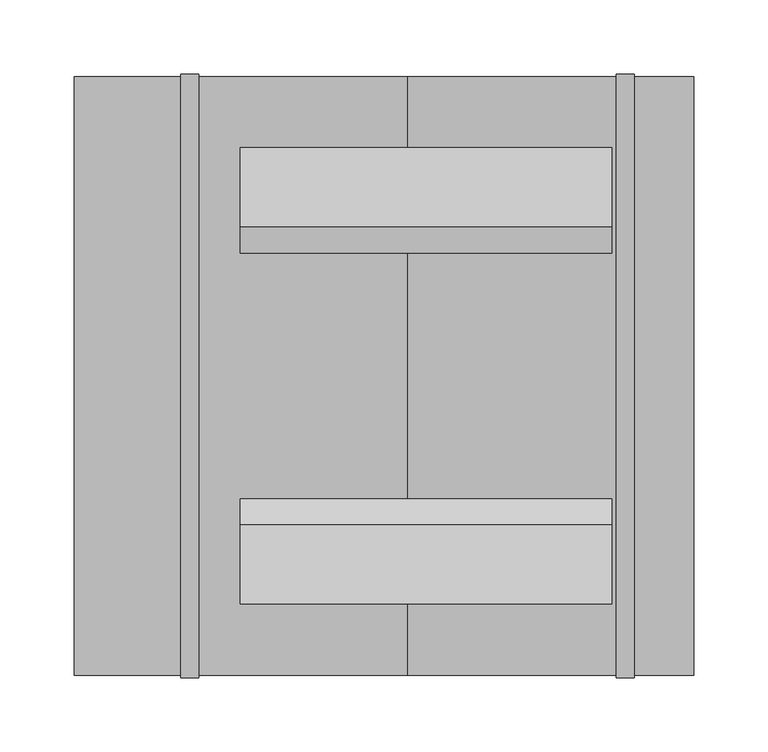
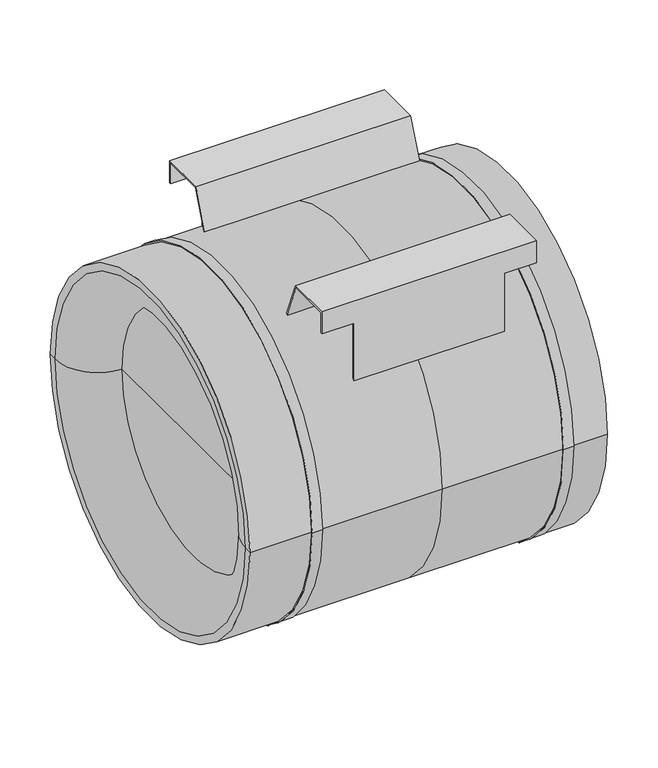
"""IFC4 building model written with IfcOpenShell, lengths in millimetres: unitary equipment geometry, VE-Wentylator-ParaForma-Harmann-JETTEC_EC-Nawiewny : 400/8100EC."""

from ifc_helpers import new_model, si_unit, point, frame, frame_2d, origin, place, context, project, spatial, polyline, circle_curve, ellipse_curve, trimmed, segment, composite_curve, outline, extrude, source, transform, mapped, element, save
from ifc_brep_helpers import plane_surface, cylinder_surface, revolved_surface, advanced_brep


def unitary_equipment_ea2b1bd6(model_context):
    return source(origin(), model_context, "Body", "SolidModel", [
        extrude(outline(composite_curve([segment(polyline([(-45.5, -47.7), (-45.5, 47.7)]), True, "CONTINUOUS"), segment(trimmed(circle_curve(frame_2d((-40.5, 47.7)), 5.0), [point((-45.5, 47.7))], [point((-40.5, 52.7))], False, "CARTESIAN"), True, "CONTINUOUS"), segment(polyline([(-40.5, 52.7), (40.5, 52.7)]), True, "CONTINUOUS"), segment(trimmed(circle_curve(frame_2d((40.5, 47.7)), 5.0), [point((40.5, 52.7))], [point((45.5, 47.7))], False, "CARTESIAN"), True, "CONTINUOUS"), segment(polyline([(45.5, 47.7), (45.5, -47.7)]), True, "CONTINUOUS"), segment(trimmed(circle_curve(frame_2d((40.5, -47.7)), 5.0), [point((45.5, -47.7))], [point((40.5, -52.7))], False, "CARTESIAN"), True, "CONTINUOUS"), segment(polyline([(40.5, -52.7), (-40.5, -52.7)]), True, "CONTINUOUS"), segment(trimmed(circle_curve(frame_2d((-40.5, -47.7)), 5.0), [point((-40.5, -52.7))], [point((-45.5, -47.7))], False, "CARTESIAN"), True, "CONTINUOUS")], self_intersect=False)), frame((0.0, -55.0, 0.0), z_axis=(0.0, 1.0, 0.0), x_axis=(0.0, 0.0, 1.0)), (0.0, 0.0, 1.0), 45.0),
        advanced_brep(
        [(137.5, 153.5, 201.5), (137.5, 153.5, 228.5), (137.5, 100.1, 228.5), (137.5, 82.790246, 183.7063558), (137.5, 84.6127647, 182.8740825), (137.5, 101.4712703, 226.5), (137.5, 151.5, 226.5), (137.5, 151.5, 201.5), (100.0, 151.5, 201.5), (100.0, 153.5, 201.5), (-112.5, 151.5, 226.5), (-112.5, 151.5, 201.5), (-75.0, 151.5, 201.5), (-75.0, 151.5, 132.8533026), (100.0, 151.5, 132.8533026), (-112.5, 101.4712703, 226.5), (100.0, 84.6127647, 182.8740825), (-75.0, 84.6127647, 182.8740825), (-112.5, 84.6127647, 182.8740825), (-112.5, 100.1, 228.5), (-112.5, 82.790246, 183.7063558), (-75.0, 82.790246, 183.7063558), (100.0, 82.790246, 183.7063558), (-112.5, 153.5, 228.5), (100.0, 153.5, 130.537351), (-75.0, 153.5, 130.537351), (-75.0, 153.5, 201.5), (-112.5, 153.5, 201.5)],
        [
            (0, 1),
            (1, 2),
            (2, 3),
            (3, 4, circle_curve(frame((137.5, 0.0, 0.0), z_axis=(-1.0, 0.0, 0.0), x_axis=(0.0, 1.0, 0.0)), 201.5)),
            (4, 5),
            (5, 6),
            (6, 7),
            (7, 0),
            (7, 8),
            (8, 9),
            (9, 0),
            (6, 10),
            (10, 11),
            (11, 12),
            (12, 13),
            (13, 14),
            (14, 8),
            (5, 15),
            (15, 10),
            (4, 16),
            (16, 17),
            (17, 18),
            (18, 15),
            (19, 20),
            (20, 21),
            (21, 22),
            (22, 3),
            (2, 19),
            (1, 23),
            (23, 19),
            (9, 24),
            (24, 25),
            (25, 26),
            (26, 27),
            (27, 23),
            (20, 18, circle_curve(frame((-112.5, 0.0, 0.0), z_axis=(-1.0, 0.0, 0.0), x_axis=(0.0, 1.0, 0.0)), 201.5)),
            (17, 21, circle_curve(frame((-75.0, 0.0, 0.0), z_axis=(1.0, 0.0, 0.0), x_axis=(0.0, 1.0, 0.0)), 201.5)),
            (22, 16, circle_curve(frame((100.0, 0.0, 0.0), z_axis=(-1.0, 0.0, 0.0), x_axis=(0.0, 1.0, 0.0)), 201.5)),
            (25, 13, circle_curve(frame((-75.0, 0.0, 0.0), z_axis=(1.0, 0.0, 0.0), x_axis=(0.0, 1.0, 0.0)), 201.5)),
            (12, 26),
            (14, 24, circle_curve(frame((100.0, 0.0, 0.0), z_axis=(-1.0, 0.0, 0.0), x_axis=(0.0, 1.0, 0.0)), 201.5)),
            (27, 11),
        ],
        [
            plane_surface(frame((137.5, 0.0, 0.0), z_axis=(1.0, 0.0, 0.0), x_axis=(0.0, 0.0, 1.0))),
            plane_surface(frame((100.0, 153.5, 201.5), z_axis=(0.0, 0.0, -1.0), x_axis=(1.0, 0.0, 0.0))),
            plane_surface(frame((100.0, 151.5, 201.5), z_axis=(0.0, -1.0, 0.0), x_axis=(1.0, 0.0, 0.0))),
            plane_surface(frame((100.0, 151.5, 226.5), z_axis=(0.0, 0.0, -1.0), x_axis=(1.0, 0.0, 0.0))),
            plane_surface(frame((100.0, 101.4712703, 226.5), z_axis=(0.0, 0.932776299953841, -0.36045578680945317), x_axis=(1.0, 0.0, 0.0))),
            plane_surface(frame((100.0, 11.8, 0.0), z_axis=(0.0, -0.9327762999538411, 0.36045578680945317), x_axis=(1.0, 0.0, 0.0))),
            plane_surface(frame((100.0, 100.1, 228.5), z_axis=(0.0, 0.0, 1.0), x_axis=(1.0, 0.0, 0.0))),
            plane_surface(frame((100.0, 153.5, 228.5), z_axis=(0.0, 1.0, 0.0), x_axis=(1.0, 0.0, 0.0))),
            revolved_surface(polyline([(-112.5, 201.5, 0.0), (-75.0, 201.5, 0.0)]), (-112.5, 0.0, 0.0), (-1.0, 0.0, 0.0)),
            revolved_surface(polyline([(100.0, 201.5, 0.0), (137.5, 201.5, 0.0)]), (100.0, 0.0, 0.0), (-1.0, 0.0, 0.0)),
            plane_surface(frame((-75.0, 0.0, 0.0), z_axis=(-1.0, 0.0, 0.0), x_axis=(0.0, 0.0, 1.0))),
            plane_surface(frame((100.0, 0.0, 0.0), z_axis=(1.0, 0.0, 0.0), x_axis=(0.0, 0.0, 1.0))),
            revolved_surface(polyline([(-75.0, 201.5, 0.0), (100.0, 201.5, 0.0)]), (-75.0, 0.0, 0.0), (-1.0, 0.0, 0.0)),
            plane_surface(frame((-112.5, 0.0, 0.0), z_axis=(-1.0, 0.0, 0.0), x_axis=(0.0, 0.0, 1.0))),
            plane_surface(frame((-112.5, 153.5, 201.5), z_axis=(0.0, 0.0, -1.0), x_axis=(1.0, 0.0, 0.0))),
        ],
        [
            (0, [[1, 2, 3, 4, 5, 6, 7, 8]]),
            (1, [[-8, 9, 10, 11]]),
            (2, [[-7, 12, 13, 14, 15, 16, 17, -9]]),
            (3, [[-12, -6, 18, 19]]),
            (4, [[-18, -5, 20, 21, 22, 23]]),
            (5, [[24, 25, 26, 27, -3, 28]]),
            (6, [[-28, -2, 29, 30]]),
            (7, [[-29, -1, -11, 31, 32, 33, 34, 35]]),
            (8, [[36, -22, 37, -25]]),
            (9, [[-4, -27, 38, -20]]),
            (10, [[39, -15, 40, -33]]),
            (11, [[41, -31, -10, -17]]),
            (12, [[-21, -38, -26, -37]]),
            (12, [[-39, -32, -41, -16]]),
            (13, [[42, -13, -19, -23, -36, -24, -30, -35]]),
            (14, [[-42, -34, -40, -14]]),
        ],
    ),
        advanced_brep(
        [(137.5, -100.1, 228.5), (137.5, -153.5, 228.5), (137.5, -153.5, 201.5), (137.5, -151.5, 201.5), (137.5, -151.5, 226.5), (137.5, -101.4712703, 226.5), (137.5, -84.6127647, 182.8740825), (137.5, -82.790246, 183.7063558), (-112.5, -101.4712703, 226.5), (-112.5, -84.6127647, 182.8740825), (-75.0, -84.6127647, 182.8740825), (100.0, -84.6127647, 182.8740825), (-112.5, -151.5, 226.5), (100.0, -151.5, 201.5), (100.0, -151.5, 132.8533026), (-75.0, -151.5, 132.8533026), (-75.0, -151.5, 201.5), (-112.5, -151.5, 201.5), (100.0, -153.5, 201.5), (-112.5, -153.5, 228.5), (-112.5, -153.5, 201.5), (-75.0, -153.5, 201.5), (-75.0, -153.5, 130.537351), (100.0, -153.5, 130.537351), (-112.5, -100.1, 228.5), (100.0, -82.790246, 183.7063558), (-75.0, -82.790246, 183.7063558), (-112.5, -82.790246, 183.7063558)],
        [
            (0, 1),
            (1, 2),
            (2, 3),
            (3, 4),
            (4, 5),
            (5, 6),
            (6, 7, circle_curve(frame((137.5, 0.0, 0.0), z_axis=(-1.0, 0.0, 0.0), x_axis=(0.0, 1.0, 0.0)), 201.5)),
            (7, 0),
            (8, 9),
            (9, 10),
            (10, 11),
            (11, 6),
            (5, 8),
            (4, 12),
            (12, 8),
            (3, 13),
            (13, 14),
            (14, 15),
            (15, 16),
            (16, 17),
            (17, 12),
            (2, 18),
            (18, 13),
            (1, 19),
            (19, 20),
            (20, 21),
            (21, 22),
            (22, 23),
            (23, 18),
            (0, 24),
            (24, 19),
            (7, 25),
            (25, 26),
            (26, 27),
            (27, 24),
            (9, 27, circle_curve(frame((-112.5, 0.0, 0.0), z_axis=(-1.0, 0.0, 0.0), x_axis=(0.0, 1.0, 0.0)), 201.5)),
            (26, 10, circle_curve(frame((-75.0, 0.0, 0.0), z_axis=(1.0, 0.0, 0.0), x_axis=(0.0, 1.0, 0.0)), 201.5)),
            (11, 25, circle_curve(frame((100.0, 0.0, 0.0), z_axis=(-1.0, 0.0, 0.0), x_axis=(0.0, 1.0, 0.0)), 201.5)),
            (15, 22, circle_curve(frame((-75.0, 0.0, 0.0), z_axis=(1.0, 0.0, 0.0), x_axis=(0.0, 1.0, 0.0)), 201.5)),
            (21, 16),
            (23, 14, circle_curve(frame((100.0, 0.0, 0.0), z_axis=(-1.0, 0.0, 0.0), x_axis=(0.0, 1.0, 0.0)), 201.5)),
            (17, 20),
        ],
        [
            plane_surface(frame((137.5, 0.0, 0.0), z_axis=(1.0, 0.0, 0.0), x_axis=(0.0, 0.0, 1.0))),
            plane_surface(frame((100.0, -13.1712703, -2.0), z_axis=(0.0, -0.932776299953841, -0.36045578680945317), x_axis=(1.0, 0.0, 0.0))),
            plane_surface(frame((100.0, -101.4712703, 226.5), z_axis=(0.0, 0.0, -1.0), x_axis=(1.0, 0.0, 0.0))),
            plane_surface(frame((100.0, -151.5, 226.5), z_axis=(0.0, 1.0, 0.0), x_axis=(1.0, 0.0, 0.0))),
            plane_surface(frame((100.0, -151.5, 201.5), z_axis=(0.0, 0.0, -1.0), x_axis=(1.0, 0.0, 0.0))),
            plane_surface(frame((100.0, -153.5, 201.5), z_axis=(0.0, -1.0, 0.0), x_axis=(1.0, 0.0, 0.0))),
            plane_surface(frame((100.0, -153.5, 228.5), z_axis=(0.0, 0.0, 1.0), x_axis=(1.0, 0.0, 0.0))),
            plane_surface(frame((100.0, -100.1, 228.5), z_axis=(0.0, 0.9327762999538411, 0.36045578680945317), x_axis=(1.0, 0.0, 0.0))),
            revolved_surface(polyline([(-112.5, 201.5, 0.0), (-75.0, 201.5, 0.0)]), (-112.5, 0.0, 0.0), (-1.0, 0.0, 0.0)),
            revolved_surface(polyline([(100.0, 201.5, 0.0), (137.5, 201.5, 0.0)]), (100.0, 0.0, 0.0), (-1.0, 0.0, 0.0)),
            plane_surface(frame((-75.0, 0.0, 0.0), z_axis=(-1.0, 0.0, 0.0), x_axis=(0.0, 0.0, 1.0))),
            plane_surface(frame((100.0, 0.0, 0.0), z_axis=(1.0, 0.0, 0.0), x_axis=(0.0, 0.0, 1.0))),
            revolved_surface(polyline([(-75.0, 201.5, 0.0), (100.0, 201.5, 0.0)]), (-75.0, 0.0, 0.0), (-1.0, 0.0, 0.0)),
            plane_surface(frame((-112.5, 0.0, 0.0), z_axis=(-1.0, 0.0, 0.0), x_axis=(0.0, 0.0, 1.0))),
            plane_surface(frame((-112.5, -151.5, 201.5), z_axis=(0.0, 0.0, -1.0), x_axis=(1.0, 0.0, 0.0))),
        ],
        [
            (0, [[1, 2, 3, 4, 5, 6, 7, 8]]),
            (1, [[9, 10, 11, 12, -6, 13]]),
            (2, [[-13, -5, 14, 15]]),
            (3, [[-14, -4, 16, 17, 18, 19, 20, 21]]),
            (4, [[-3, 22, 23, -16]]),
            (5, [[-2, 24, 25, 26, 27, 28, 29, -22]]),
            (6, [[-24, -1, 30, 31]]),
            (7, [[-30, -8, 32, 33, 34, 35]]),
            (8, [[36, -34, 37, -10]]),
            (9, [[-7, -12, 38, -32]]),
            (10, [[39, -27, 40, -19]]),
            (11, [[41, -17, -23, -29]]),
            (12, [[-11, -37, -33, -38]]),
            (12, [[-39, -18, -41, -28]]),
            (13, [[-15, -21, 42, -25, -31, -35, -36, -9]]),
            (14, [[-42, -20, -40, -26]]),
        ],
    ),
        advanced_brep(
        [(-140.5, 201.5, 0.0), (0.0, 201.5, 0.0), (0.0, -201.5, 0.0), (-140.5, -201.5, 0.0), (-224.0, -201.5, 0.0), (-224.0, 201.5, 0.0), (-152.5, 201.5, 0.0), (-152.5, -201.5, 0.0), (-224.0, -192.5, 0.0), (-224.0, 192.5, 0.0), (-174.5, -143.0, 0.0), (-174.5, 143.0, 0.0), (-174.5, 0.0, 0.0), (192.5, -201.5, 0.0), (192.5, 201.5, 0.0), (192.5, 0.0, 0.0), (152.5, -201.5, 0.0), (152.5, 201.5, 0.0), (140.5, 201.5, 0.0), (140.5, -201.5, 0.0), (-140.5, -203.0, 0.0), (-140.5, 203.0, 0.0), (-152.5, -203.0, 0.0), (-152.5, 203.0, 0.0), (152.5, -203.0, 0.0), (152.5, 203.0, 0.0), (140.5, -203.0, 0.0), (140.5, 203.0, 0.0)],
        [
            (0, 1),
            (1, 2, circle_curve(frame((0.0, 0.0, 0.0), z_axis=(-1.0, 0.0, 0.0), x_axis=(0.0, 1.0, 0.0)), 201.5)),
            (2, 3),
            (3, 0, circle_curve(frame((-140.5, 0.0, 0.0), z_axis=(1.0, 0.0, 0.0), x_axis=(0.0, 1.0, 0.0)), 201.5)),
            (0, 3, circle_curve(frame((-140.5, 0.0, 0.0), z_axis=(1.0, 0.0, 0.0), x_axis=(0.0, 1.0, 0.0)), 201.5)),
            (2, 1, circle_curve(frame((0.0, 0.0, 0.0), z_axis=(-1.0, 0.0, 0.0), x_axis=(0.0, 1.0, 0.0)), 201.5)),
            (4, 5, circle_curve(frame((-224.0, 0.0, 0.0), z_axis=(1.0, 0.0, 0.0), x_axis=(0.0, 1.0, 0.0)), 201.5)),
            (5, 6),
            (6, 7, circle_curve(frame((-152.5, 0.0, 0.0), z_axis=(-1.0, 0.0, 0.0), x_axis=(0.0, 1.0, 0.0)), 201.5)),
            (7, 4),
            (5, 4, circle_curve(frame((-224.0, 0.0, 0.0), z_axis=(1.0, 0.0, 0.0), x_axis=(0.0, 1.0, 0.0)), 201.5)),
            (7, 6, circle_curve(frame((-152.5, 0.0, 0.0), z_axis=(-1.0, 0.0, 0.0), x_axis=(0.0, 1.0, 0.0)), 201.5)),
            (4, 8),
            (8, 9, circle_curve(frame((-224.0, 0.0, 0.0), z_axis=(1.0, 0.0, 0.0), x_axis=(0.0, 1.0, 0.0)), 192.5)),
            (9, 5),
            (9, 8, circle_curve(frame((-224.0, 0.0, 0.0), z_axis=(1.0, 0.0, 0.0), x_axis=(0.0, 1.0, 0.0)), 192.5)),
            (8, 10, circle_curve(frame((-174.5, -192.5, 0.0), z_axis=(0.0, 0.0, -1.0), x_axis=(1.0, 0.0, 0.0)), 49.5)),
            (10, 11, circle_curve(frame((-174.5, 0.0, 0.0), z_axis=(1.0, 0.0, 0.0), x_axis=(0.0, 1.0, 0.0)), 143.0)),
            (11, 9, circle_curve(frame((-174.5, 192.5, 0.0), z_axis=(0.0, 0.0, -1.0), x_axis=(1.0, 0.0, 0.0)), 49.5)),
            (11, 10, circle_curve(frame((-174.5, 0.0, 0.0), z_axis=(1.0, 0.0, 0.0), x_axis=(0.0, 1.0, 0.0)), 143.0)),
            (10, 12),
            (12, 11),
            (13, 14, circle_curve(frame((192.5, 0.0, 0.0), z_axis=(1.0, 0.0, 0.0), x_axis=(0.0, 1.0, 0.0)), 201.5)),
            (14, 15),
            (15, 13),
            (14, 13, circle_curve(frame((192.5, 0.0, 0.0), z_axis=(1.0, 0.0, 0.0), x_axis=(0.0, 1.0, 0.0)), 201.5)),
            (13, 16),
            (16, 17, circle_curve(frame((152.5, 0.0, 0.0), z_axis=(1.0, 0.0, 0.0), x_axis=(0.0, 1.0, 0.0)), 201.5)),
            (17, 14),
            (17, 16, circle_curve(frame((152.5, 0.0, 0.0), z_axis=(1.0, 0.0, 0.0), x_axis=(0.0, 1.0, 0.0)), 201.5)),
            (1, 18),
            (18, 19, circle_curve(frame((140.5, 0.0, 0.0), z_axis=(-1.0, 0.0, 0.0), x_axis=(0.0, 1.0, 0.0)), 201.5)),
            (19, 2),
            (19, 18, circle_curve(frame((140.5, 0.0, 0.0), z_axis=(-1.0, 0.0, 0.0), x_axis=(0.0, 1.0, 0.0)), 201.5)),
            (20, 21, circle_curve(frame((-140.5, 0.0, 0.0), z_axis=(1.0, 0.0, 0.0), x_axis=(0.0, 1.0, 0.0)), 203.0)),
            (21, 0),
            (3, 20),
            (21, 20, circle_curve(frame((-140.5, 0.0, 0.0), z_axis=(1.0, 0.0, 0.0), x_axis=(0.0, 1.0, 0.0)), 203.0)),
            (20, 22),
            (22, 23, circle_curve(frame((-152.5, 0.0, 0.0), z_axis=(1.0, 0.0, 0.0), x_axis=(0.0, 1.0, 0.0)), 203.0)),
            (23, 21),
            (23, 22, circle_curve(frame((-152.5, 0.0, 0.0), z_axis=(1.0, 0.0, 0.0), x_axis=(0.0, 1.0, 0.0)), 203.0)),
            (22, 7),
            (6, 23),
            (24, 25, circle_curve(frame((152.5, 0.0, 0.0), z_axis=(1.0, 0.0, 0.0), x_axis=(0.0, 1.0, 0.0)), 203.0)),
            (25, 17),
            (16, 24),
            (25, 24, circle_curve(frame((152.5, 0.0, 0.0), z_axis=(1.0, 0.0, 0.0), x_axis=(0.0, 1.0, 0.0)), 203.0)),
            (24, 26),
            (26, 27, circle_curve(frame((140.5, 0.0, 0.0), z_axis=(1.0, 0.0, 0.0), x_axis=(0.0, 1.0, 0.0)), 203.0)),
            (27, 25),
            (27, 26, circle_curve(frame((140.5, 0.0, 0.0), z_axis=(1.0, 0.0, 0.0), x_axis=(0.0, 1.0, 0.0)), 203.0)),
            (26, 19),
            (18, 27),
        ],
        [
            cylinder_surface(frame((-174.5, 0.0, 0.0), z_axis=(-1.0, 0.0, 0.0), x_axis=(0.0, 1.0, 0.0)), 201.5),
            plane_surface(frame((-224.0, 0.0, 0.0), z_axis=(-1.0, 0.0, 0.0), x_axis=(0.0, 1.0, 0.0))),
            revolved_surface(trimmed(ellipse_curve(frame((-174.5, 192.5, 0.0), z_axis=(0.0, 0.0, 1.0), x_axis=(1.0, 0.0, 0.0)), 49.5, 49.5), [point((-224.0, 192.5, 0.0))], [point((-174.5, 143.0, 0.0))], True, "CARTESIAN"), (-174.5, 0.0, 0.0), (-1.0, 0.0, 0.0)),
            plane_surface(frame((-174.5, 0.0, 0.0), z_axis=(-1.0, 0.0, 0.0), x_axis=(0.0, 1.0, 0.0))),
            plane_surface(frame((192.5, 0.0, 0.0), z_axis=(1.0, 0.0, 0.0), x_axis=(0.0, 1.0, 0.0))),
            cylinder_surface(frame((0.0, 0.0, 0.0), z_axis=(-1.0, 0.0, 0.0), x_axis=(0.0, 1.0, 0.0)), 201.5),
            plane_surface(frame((-140.5, 0.0, 0.0), z_axis=(1.0, 0.0, 0.0), x_axis=(0.0, 1.0, 0.0))),
            cylinder_surface(frame((-152.5, 0.0, 0.0), z_axis=(-1.0, 0.0, 0.0), x_axis=(0.0, 1.0, 0.0)), 203.0),
            plane_surface(frame((-152.5, 0.0, 0.0), z_axis=(-1.0, 0.0, 0.0), x_axis=(0.0, 1.0, 0.0))),
            plane_surface(frame((152.5, 0.0, 0.0), z_axis=(1.0, 0.0, 0.0), x_axis=(0.0, 1.0, 0.0))),
            plane_surface(frame((140.5, 0.0, 0.0), z_axis=(-1.0, 0.0, 0.0), x_axis=(0.0, 1.0, 0.0))),
        ],
        [
            (0, [[1, 2, 3, 4]]),
            (0, [[-1, 5, -3, 6]]),
            (0, [[7, 8, 9, 10]]),
            (0, [[-8, 11, -10, 12]]),
            (1, [[-7, 13, 14, 15]]),
            (1, [[-11, -15, 16, -13]]),
            (2, [[-14, 17, 18, 19]]),
            (2, [[-16, -19, 20, -17]]),
            (3, [[-18, 21, 22]]),
            (3, [[-20, -22, -21]]),
            (4, [[23, 24, 25]]),
            (4, [[-24, 26, -25]]),
            (5, [[-23, 27, 28, 29]]),
            (5, [[-26, -29, 30, -27]]),
            (5, [[31, 32, 33, -2]]),
            (5, [[-31, -6, -33, 34]]),
            (6, [[35, 36, -4, 37]]),
            (6, [[38, -37, -5, -36]]),
            (7, [[-35, 39, 40, 41]]),
            (7, [[-38, -41, 42, -39]]),
            (8, [[-40, 43, -9, 44]]),
            (8, [[-42, -44, -12, -43]]),
            (9, [[45, 46, -28, 47]]),
            (9, [[48, -47, -30, -46]]),
            (7, [[-45, 49, 50, 51]]),
            (7, [[-48, -51, 52, -49]]),
            (10, [[-50, 53, -32, 54]]),
            (10, [[-52, -54, -34, -53]]),
        ],
    ),
    ])


if __name__ == "__main__":
    model = new_model("IFC4")
    model_context = context("Model", 3, world=origin())
    ifc_project = project(units=[si_unit("LENGTHUNIT", "METRE", prefix="MILLI")], contexts=[model_context])
    site = spatial("IfcSite", under=ifc_project)
    building = spatial("IfcBuilding", under=site)
    placement = place(None, origin())
    unitary_equipment_shape = unitary_equipment_ea2b1bd6(model_context)
    element("IfcUnitaryEquipment", 1, ObjectType="VE-Wentylator-ParaForma-Harmann-JETTEC_EC-Nawiewny : 400/8100EC", at=placement, inside=building, context=model_context, shape_type="MappedRepresentation", body=[
        mapped(unitary_equipment_shape, transform((0.0, 0.0, 0.0), x_axis=(1.0, 0.0, 0.0), y_axis=(0.0, 1.0, 0.0), z_axis=(0.0, 0.0, 1.0))),
    ])
    save(model, "model.ifc")
